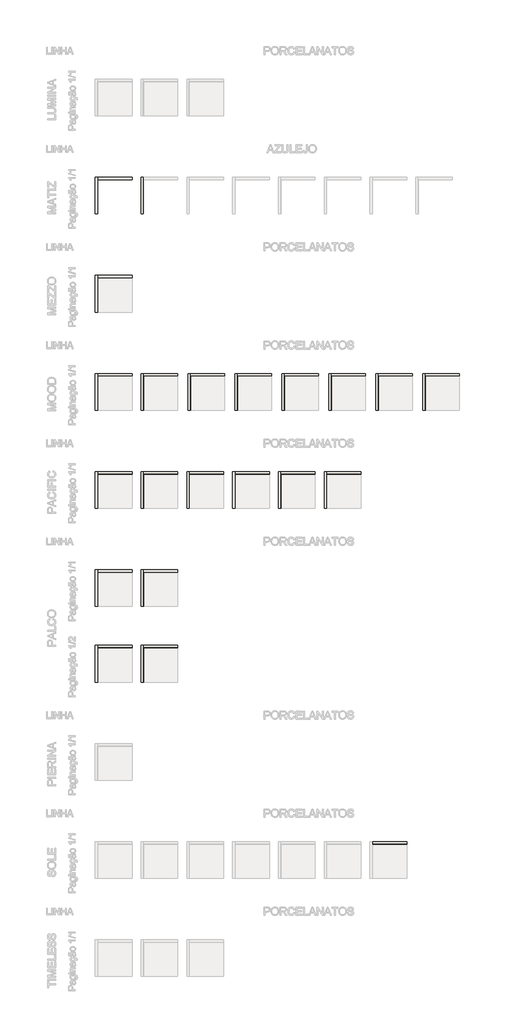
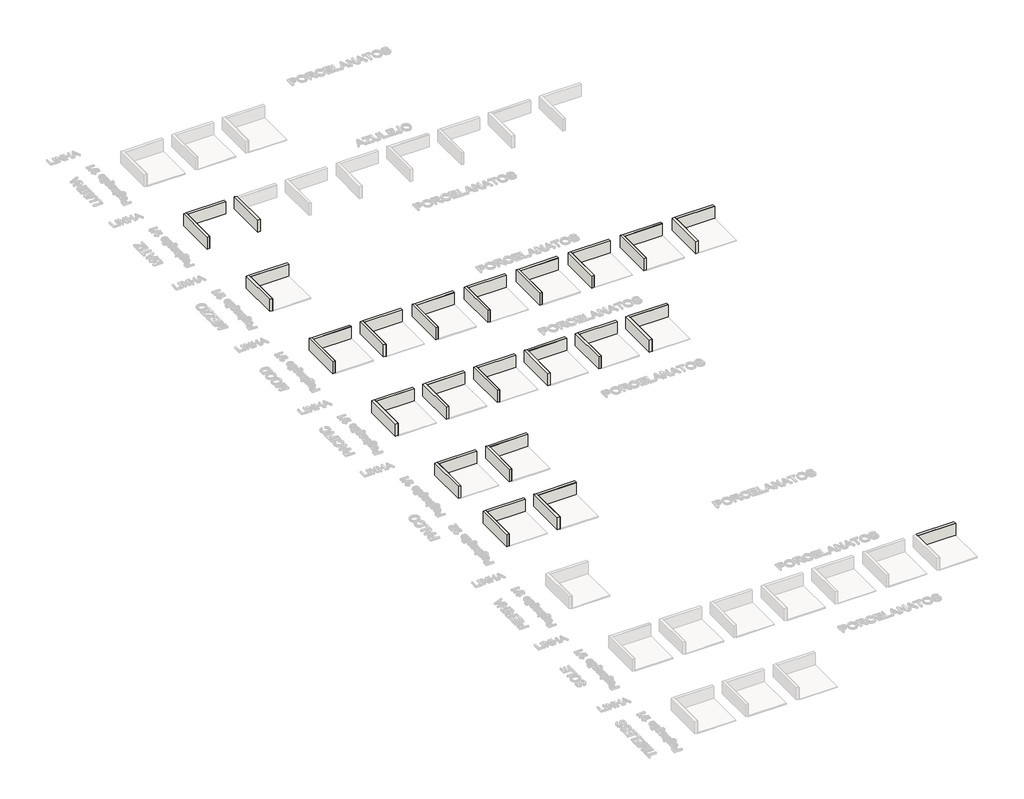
# One storey, part 2 of 22: 83 walls.
"""IFC4 building model written with IfcOpenShell, lengths in millimetres."""

import ifcopenshell
import ifcopenshell.guid

model = None  # the IFC model being written
_history = None  # IfcOwnerHistory: only IFC2X3 demands one
_inside = {}  # id of a spatial element -> (the spatial element, [elements in it])
_under = {}  # id of a project, library or spatial element -> (it, [spatial elements below it])
_declared = {}  # id of a project -> (the project, [libraries it declares])
_typed = {}  # id of a type object -> (the type object, [elements of that type])
_made_of = {}  # id of a material, layer set ... -> (it, [elements and type objects made of it])


def new_model(schema):
    """Start an empty IFC model of exactly this schema.

    Asked for "IFC4X3", IfcOpenShell would pick the latest addendum, in which some entities
    have other attributes; the version numbers below select the first issue.
    IFC2X3 requires an IfcOwnerHistory on every rooted entity: one is made here for all.
    """
    global model, _history
    if schema == "IFC4X3":
        model = ifcopenshell.file(schema_version=(4, 3, 0, 0))
    else:
        model = ifcopenshell.file(schema=schema)
    _inside.clear()
    _under.clear()
    _declared.clear()
    _typed.clear()
    _made_of.clear()
    _history = None
    if model.schema == "IFC2X3":
        org = make("IfcOrganization", Name="unknown")
        user = make(
            "IfcPersonAndOrganization",
            ThePerson=make("IfcPerson", FamilyName="unknown"),
            TheOrganization=org,
        )
        app = make(
            "IfcApplication",
            ApplicationDeveloper=org,
            Version="unknown",
            ApplicationFullName="unknown",
            ApplicationIdentifier="unknown",
        )
        _history = make(
            "IfcOwnerHistory",
            OwningUser=user,
            OwningApplication=app,
            ChangeAction="ADDED",
            CreationDate=0,
        )
    return model


def make(cls, **values):
    """One entity of the class cls with the attributes given. An attribute that is None is left unset."""
    return model.create_entity(
        cls, **{name: value for name, value in values.items() if value is not None}
    )


def rooted(cls, **values):
    """An entity with a GlobalId (a new one), such as an element, a storey or a relation."""
    return make(cls, GlobalId=ifcopenshell.guid.new(), OwnerHistory=_history, **values)


def si_unit(unit_type, name, prefix=None):
    """IfcSIUnit, for example si_unit("LENGTHUNIT", "METRE", prefix="MILLI")."""
    return make("IfcSIUnit", UnitType=unit_type, Prefix=prefix, Name=name)


def assignment(units):
    """IfcUnitAssignment: the units of a project."""
    return None if units is None else make("IfcUnitAssignment", Units=units)


def point(xyz):
    """IfcCartesianPoint."""
    return None if xyz is None else make("IfcCartesianPoint", Coordinates=xyz)


def direction(xyz):
    """IfcDirection."""
    return None if xyz is None else make("IfcDirection", DirectionRatios=xyz)


def frame(location, z_axis=None, x_axis=None):
    """IfcAxis2Placement3D, a coordinate frame: its origin and axes. An axis left out is left unset."""
    return make(
        "IfcAxis2Placement3D",
        Location=point(location),
        Axis=direction(z_axis),
        RefDirection=direction(x_axis),
    )


def origin():
    """The frame at (0, 0, 0) with its axes left unset."""
    return frame((0.0, 0.0, 0.0))


def origin_with_axes():
    """The frame at (0, 0, 0) with the z axis (0, 0, 1) and the x axis (1, 0, 0) written out."""
    return frame((0.0, 0.0, 0.0), z_axis=(0.0, 0.0, 1.0), x_axis=(1.0, 0.0, 0.0))


def place(relative_to, where):
    """IfcLocalPlacement: puts the frame where relative to a parent placement (None: the world)."""
    return make(
        "IfcLocalPlacement", PlacementRelTo=relative_to, RelativePlacement=where
    )


def context(
    kind, dimensions, precision=None, world=None, true_north=None, identifier=None
):
    """IfcGeometricRepresentationContext, for example the 3D "Model" context."""
    return make(
        "IfcGeometricRepresentationContext",
        ContextIdentifier=identifier,
        ContextType=kind,
        CoordinateSpaceDimension=dimensions,
        Precision=precision,
        WorldCoordinateSystem=world,
        TrueNorth=true_north,
    )


def project(units=None, contexts=None):
    """IfcProject with its units and contexts."""
    return rooted(
        "IfcProject",
        Name="project",
        RepresentationContexts=contexts,
        UnitsInContext=assignment(units),
    )


def spatial(cls, under=None, at=None, **own):
    """A site, building, storey or space (cls), placed at a placement, below another one or the project."""
    s = rooted(cls, ObjectPlacement=at, **own)
    if under is not None:
        _under.setdefault(under.id(), (under, []))[1].append(s)
    return s


def polyline(points):
    """IfcPolyline through the points."""
    return make("IfcPolyline", Points=[point(p) for p in points])


def outline(outer, holes=None, kind="AREA"):
    """IfcArbitraryClosedProfileDef: a profile drawn as a closed curve; with holes, ...WithVoids."""
    if holes is None:
        return make("IfcArbitraryClosedProfileDef", ProfileType=kind, OuterCurve=outer)
    return make(
        "IfcArbitraryProfileDefWithVoids",
        ProfileType=kind,
        OuterCurve=outer,
        InnerCurves=holes,
    )


def extrude(swept, where, along, depth):
    """IfcExtrudedAreaSolid: the profile swept, set in the frame where, extruded along a direction by depth."""
    return make(
        "IfcExtrudedAreaSolid",
        SweptArea=swept,
        Position=where,
        ExtrudedDirection=direction(along),
        Depth=depth,
    )


def faces_of(points, faces, orient=None, outer=None):
    """IfcFace entities. A face is a list of loops; a loop is a list of indices into points, from 0.

    orient and outer hold one flag for each loop. By default every Orientation is true, the
    first loop of a face is its IfcFaceOuterBound and the others are IfcFaceBound.
    """
    made = []
    for i, loops in enumerate(faces):
        bounds = []
        for j, loop in enumerate(loops):
            is_outer = j == 0 if outer is None else outer[i][j]
            bounds.append(
                make(
                    "IfcFaceOuterBound" if is_outer else "IfcFaceBound",
                    Bound=make("IfcPolyLoop", Polygon=[points[k] for k in loop]),
                    Orientation=True if orient is None else orient[i][j],
                )
            )
        made.append(make("IfcFace", Bounds=bounds))
    return made


def faceted_brep(points, faces, orient=None, outer=None, voids=None):
    """IfcFacetedBrep: a solid bounded by flat faces; with voids (closed shells), ...WithVoids."""
    shared = [point(p) for p in points]
    hull = make("IfcClosedShell", CfsFaces=faces_of(shared, faces, orient, outer))
    if voids is None:
        return make("IfcFacetedBrep", Outer=hull)
    return make(
        "IfcFacetedBrepWithVoids",
        Outer=hull,
        Voids=[
            make(cls, CfsFaces=faces_of(shared, fs, o, b)) for cls, fs, o, b in voids
        ],
    )


def shape(context_of_items, identifier, shape_type, items):
    """IfcShapeRepresentation: the items that make up one representation, for example the "Body"."""
    return make(
        "IfcShapeRepresentation",
        ContextOfItems=context_of_items,
        RepresentationIdentifier=identifier,
        RepresentationType=shape_type,
        Items=items,
    )


def made_of(thing, what):
    """Note that an element or type object is made of a material, layer set ...; save() writes the relation."""
    if what is not None:
        _made_of.setdefault(what.id(), (what, []))[1].append(thing)
    return thing


def element(
    cls,
    number,
    at=None,
    inside=None,
    cuts=None,
    type_object=None,
    material=None,
    context=None,
    identifier="Body",
    shape_type=None,
    held_by="IfcProductDefinitionShape",
    body=None,
    shapes=None,
    **own,
):
    """One element of the class cls, such as IfcWall. Its Tag is "e" and its number.

    at: its placement. inside: the storey or other place that contains it. cuts: it is an
    opening in that element (IfcRelVoidsElement). A single representation is given by context,
    identifier, shape_type and body (its items); several are given by shapes. held_by: the class
    of the entity that holds the representations. save() writes the other relations.
    """
    e = rooted(cls, Tag="e%d" % number, ObjectPlacement=at, **own)
    if body is not None:
        shapes = [shape(context, identifier, shape_type, body)]
    if shapes is not None:
        e.Representation = make(held_by, Representations=shapes)
    if inside is not None:
        _inside.setdefault(inside.id(), (inside, []))[1].append(e)
    if cuts is not None:
        rooted(
            "IfcRelVoidsElement", RelatingBuildingElement=cuts, RelatedOpeningElement=e
        )
    if type_object is not None:
        _typed.setdefault(type_object.id(), (type_object, []))[1].append(e)
    return made_of(e, material)


def aggregate(whole, parts):
    """IfcRelAggregates: a whole, such as a stair, and the parts it consists of."""
    return rooted("IfcRelAggregates", RelatingObject=whole, RelatedObjects=parts)


def save(model, path):
    """Write the relations noted so far, then the file.

    IfcRelAggregates (storeys below a building ...), IfcRelContainedInSpatialStructure (elements
    in a storey), IfcRelDefinesByType, IfcRelAssociatesMaterial and IfcRelDeclares: one each for
    every whole, place, type object, material and project.
    """
    for whole, parts in _under.values():
        aggregate(whole, parts)
    for where, things in _inside.values():
        rooted(
            "IfcRelContainedInSpatialStructure",
            RelatedElements=things,
            RelatingStructure=where,
        )
    for kind, things in _typed.values():
        rooted("IfcRelDefinesByType", RelatedObjects=things, RelatingType=kind)
    for what, things in _made_of.values():
        rooted("IfcRelAssociatesMaterial", RelatedObjects=things, RelatingMaterial=what)
    for by, libraries in _declared.values():
        rooted("IfcRelDeclares", RelatingContext=by, RelatedDefinitions=libraries)
    model.write(path)


model = new_model("IFC4")

# Units and contexts
model_context = context("Model", 3, world=origin())
ifc_project = project(units=[si_unit("LENGTHUNIT", "METRE", prefix="MILLI")], contexts=[model_context])

# Site, building, storey
site = spatial("IfcSite", under=ifc_project)
building = spatial("IfcBuilding", under=site)
storey = spatial("IfcBuildingStorey", under=building, Name="Showroom (N.A.)", Elevation=0.0)

# Walls
placement = place(None, origin())
element("IfcWall", 1, ObjectType="Portinari_Matiz_GR_LUX_8,24x25,75_Pag-1/1", at=placement, inside=storey, context=model_context, shape_type="Brep", body=[
    faceted_brep([(-107054.0516826, -148149.0310434, 0.0), (-110054.0516826, -148149.0310434, 0.0), (-110054.0516826, -148149.0310434, 1000.0), (-107054.0516826, -148149.0310434, 1000.0), (-107054.0516826, -148161.4310434, 0.0), (-107054.0516826, -148161.4310434, 1000.0), (-110041.6516826, -148161.4310434, 1000.0), (-110054.0516826, -148161.4310434, 1000.0), (-110054.0516826, -148161.4310434, 0.0), (-110041.6516826, -148161.4310434, 0.0)], [[[0, 1, 2, 3]], [[4, 5, 6, 7, 8, 9]], [[1, 0, 4, 9, 8]], [[3, 2, 7, 6, 5]], [[0, 3, 5, 4]], [[2, 1, 8, 7]]]),
])
element("IfcWall", 2, ObjectType="Portinari_Matiz_GR_LUX_8,24x25,75_Pag-1/1", at=placement, inside=storey, context=model_context, shape_type="SweptSolid", body=[
    extrude(outline(polyline([(-110054.0516826, -151149.0310434), (-110054.0516826, -148161.4310434), (-110041.6516826, -148161.4310434), (-110041.6516826, -151149.0310434), (-110054.0516826, -151149.0310434)])), origin_with_axes(), (0.0, 0.0, 1.0), 1000.0),
])
element("IfcWall", 3, ObjectType="Portinari_Mezzo_BE_NAT_8,24x25,75_Pag-1/1", at=placement, inside=storey, context=model_context, shape_type="Brep", body=[
    faceted_brep([(-107054.0516826, -156712.4019223, 0.0), (-110054.0516826, -156712.4019223, 0.0), (-110054.0516826, -156712.4019223, 1000.0), (-107054.0516826, -156712.4019223, 1000.0), (-107054.0516826, -156726.4019223, 0.0), (-107054.0516826, -156726.4019223, 1000.0), (-110040.0516826, -156726.4019223, 1000.0), (-110054.0516826, -156726.4019223, 1000.0), (-110054.0516826, -156726.4019223, 0.0), (-110040.0516826, -156726.4019223, 0.0)], [[[0, 1, 2, 3]], [[4, 5, 6, 7, 8, 9]], [[1, 0, 4, 9, 8]], [[3, 2, 7, 6, 5]], [[0, 3, 5, 4]], [[2, 1, 8, 7]]]),
])
element("IfcWall", 4, ObjectType="Portinari_Mezzo_BE_NAT_8,24x25,75_Pag-1/1", at=placement, inside=storey, context=model_context, shape_type="SweptSolid", body=[
    extrude(outline(polyline([(-110054.0516826, -159712.4019223), (-110054.0516826, -156726.4019223), (-110040.0516826, -156726.4019223), (-110040.0516826, -159712.4019223), (-110054.0516826, -159712.4019223)])), origin_with_axes(), (0.0, 0.0, 1.0), 1000.0),
])
element("IfcWall", 5, ObjectType="Portinari_Mood_WH_LUX_15x15_Pag-1/1", at=placement, inside=storey, context=model_context, shape_type="Brep", body=[
    faceted_brep([(-107054.0516826, -165275.7728011, 0.0), (-110054.0516826, -165275.7728011, 0.0), (-110054.0516826, -165275.7728011, 1000.0), (-107054.0516826, -165275.7728011, 1000.0), (-107054.0516826, -165288.1728011, 0.0), (-107054.0516826, -165288.1728011, 1000.0), (-110041.6516826, -165288.1728011, 1000.0), (-110054.0516826, -165288.1728011, 1000.0), (-110054.0516826, -165288.1728011, 0.0), (-110041.6516826, -165288.1728011, 0.0)], [[[0, 1, 2, 3]], [[4, 5, 6, 7, 8, 9]], [[1, 0, 4, 9, 8]], [[3, 2, 7, 6, 5]], [[0, 3, 5, 4]], [[2, 1, 8, 7]]]),
])
element("IfcWall", 6, ObjectType="Portinari_Mood_WH_LUX_15x15_Pag-1/1", at=placement, inside=storey, context=model_context, shape_type="SweptSolid", body=[
    extrude(outline(polyline([(-110054.0516826, -168275.7728011), (-110054.0516826, -165288.1728011), (-110041.6516826, -165288.1728011), (-110041.6516826, -168275.7728011), (-110054.0516826, -168275.7728011)])), origin_with_axes(), (0.0, 0.0, 1.0), 1000.0),
])
element("IfcWall", 7, ObjectType="Portinari_Mood_AL_LUX_15x15_Pag-1/1", at=placement, inside=storey, context=model_context, shape_type="Brep", body=[
    faceted_brep([(-103054.0516826, -165275.7728011, 0.0), (-106054.0516826, -165275.7728011, 0.0), (-106054.0516826, -165275.7728011, 1000.0), (-103054.0516826, -165275.7728011, 1000.0), (-103054.0516826, -165288.1728011, 0.0), (-103054.0516826, -165288.1728011, 1000.0), (-106041.6516826, -165288.1728011, 1000.0), (-106054.0516826, -165288.1728011, 1000.0), (-106054.0516826, -165288.1728011, 0.0), (-106041.6516826, -165288.1728011, 0.0)], [[[0, 1, 2, 3]], [[4, 5, 6, 7, 8, 9]], [[1, 0, 4, 9, 8]], [[3, 2, 7, 6, 5]], [[0, 3, 5, 4]], [[2, 1, 8, 7]]]),
])
element("IfcWall", 8, ObjectType="Portinari_Mood_AL_LUX_15x15_Pag-1/1", at=placement, inside=storey, context=model_context, shape_type="SweptSolid", body=[
    extrude(outline(polyline([(-106054.0516826, -168275.7728011), (-106054.0516826, -165288.1728011), (-106041.6516826, -165288.1728011), (-106041.6516826, -168275.7728011), (-106054.0516826, -168275.7728011)])), origin_with_axes(), (0.0, 0.0, 1.0), 1000.0),
])
element("IfcWall", 9, ObjectType="Portinari_Mood_GR_LUX_15x15_Pag-1/1", at=placement, inside=storey, context=model_context, shape_type="Brep", body=[
    faceted_brep([(-98954.0516826, -165275.7728011, 0.0), (-101954.0516826, -165275.7728011, 0.0), (-101954.0516826, -165275.7728011, 1000.0), (-98954.0516826, -165275.7728011, 1000.0), (-98954.0516826, -165288.1728011, 0.0), (-98954.0516826, -165288.1728011, 1000.0), (-101941.6516826, -165288.1728011, 1000.0), (-101954.0516826, -165288.1728011, 1000.0), (-101954.0516826, -165288.1728011, 0.0), (-101941.6516826, -165288.1728011, 0.0)], [[[0, 1, 2, 3]], [[4, 5, 6, 7, 8, 9]], [[1, 0, 4, 9, 8]], [[3, 2, 7, 6, 5]], [[0, 3, 5, 4]], [[2, 1, 8, 7]]]),
])
element("IfcWall", 10, ObjectType="Portinari_Mood_GR_LUX_15x15_Pag-1/1", at=placement, inside=storey, context=model_context, shape_type="SweptSolid", body=[
    extrude(outline(polyline([(-101954.0516826, -168275.7728011), (-101954.0516826, -165288.1728011), (-101941.6516826, -165288.1728011), (-101941.6516826, -168275.7728011), (-101954.0516826, -168275.7728011)])), origin_with_axes(), (0.0, 0.0, 1.0), 1000.0),
])
element("IfcWall", 11, ObjectType="Portinari_Mood_BW_LUX_15x15_Pag-1/1", at=placement, inside=storey, context=model_context, shape_type="Brep", body=[
    faceted_brep([(-94854.0516826, -165275.7728011, 0.0), (-97854.0516826, -165275.7728011, 0.0), (-97854.0516826, -165275.7728011, 1000.0), (-94854.0516826, -165275.7728011, 1000.0), (-94854.0516826, -165288.1728011, 0.0), (-94854.0516826, -165288.1728011, 1000.0), (-97841.6516826, -165288.1728011, 1000.0), (-97854.0516826, -165288.1728011, 1000.0), (-97854.0516826, -165288.1728011, 0.0), (-97841.6516826, -165288.1728011, 0.0)], [[[0, 1, 2, 3]], [[4, 5, 6, 7, 8, 9]], [[1, 0, 4, 9, 8]], [[3, 2, 7, 6, 5]], [[0, 3, 5, 4]], [[2, 1, 8, 7]]]),
])
element("IfcWall", 12, ObjectType="Portinari_Mood_BW_LUX_15x15_Pag-1/1", at=placement, inside=storey, context=model_context, shape_type="SweptSolid", body=[
    extrude(outline(polyline([(-97854.0516826, -168275.7728011), (-97854.0516826, -165288.1728011), (-97841.6516826, -165288.1728011), (-97841.6516826, -168275.7728011), (-97854.0516826, -168275.7728011)])), origin_with_axes(), (0.0, 0.0, 1.0), 1000.0),
])
element("IfcWall", 13, ObjectType="Portinari_Mood_GN_LUX_15x15_Pag-1/1", at=placement, inside=storey, context=model_context, shape_type="Brep", body=[
    faceted_brep([(-90754.0516826, -165275.7728011, 0.0), (-93754.0516826, -165275.7728011, 0.0), (-93754.0516826, -165275.7728011, 1000.0), (-90754.0516826, -165275.7728011, 1000.0), (-90754.0516826, -165288.1728011, 0.0), (-90754.0516826, -165288.1728011, 1000.0), (-93741.6516826, -165288.1728011, 1000.0), (-93754.0516826, -165288.1728011, 1000.0), (-93754.0516826, -165288.1728011, 0.0), (-93741.6516826, -165288.1728011, 0.0)], [[[0, 1, 2, 3]], [[4, 5, 6, 7, 8, 9]], [[1, 0, 4, 9, 8]], [[3, 2, 7, 6, 5]], [[0, 3, 5, 4]], [[2, 1, 8, 7]]]),
])
element("IfcWall", 14, ObjectType="Portinari_Mood_GN_LUX_15x15_Pag-1/1", at=placement, inside=storey, context=model_context, shape_type="SweptSolid", body=[
    extrude(outline(polyline([(-93754.0516826, -168275.7728011), (-93754.0516826, -165288.1728011), (-93741.6516826, -165288.1728011), (-93741.6516826, -168275.7728011), (-93754.0516826, -168275.7728011)])), origin_with_axes(), (0.0, 0.0, 1.0), 1000.0),
])
element("IfcWall", 15, ObjectType="Portinari_Mood_BL_LUX_15x15_Pag-1/1", at=placement, inside=storey, context=model_context, shape_type="Brep", body=[
    faceted_brep([(-86654.0516826, -165275.7728011, 0.0), (-89654.0516826, -165275.7728011, 0.0), (-89654.0516826, -165275.7728011, 1000.0), (-86654.0516826, -165275.7728011, 1000.0), (-86654.0516826, -165288.1728011, 0.0), (-86654.0516826, -165288.1728011, 1000.0), (-89641.6516826, -165288.1728011, 1000.0), (-89654.0516826, -165288.1728011, 1000.0), (-89654.0516826, -165288.1728011, 0.0), (-89641.6516826, -165288.1728011, 0.0)], [[[0, 1, 2, 3]], [[4, 5, 6, 7, 8, 9]], [[1, 0, 4, 9, 8]], [[3, 2, 7, 6, 5]], [[0, 3, 5, 4]], [[2, 1, 8, 7]]]),
])
element("IfcWall", 16, ObjectType="Portinari_Mood_BL_LUX_15x15_Pag-1/1", at=placement, inside=storey, context=model_context, shape_type="SweptSolid", body=[
    extrude(outline(polyline([(-89654.0516826, -168275.7728011), (-89654.0516826, -165288.1728011), (-89641.6516826, -165288.1728011), (-89641.6516826, -168275.7728011), (-89654.0516826, -168275.7728011)])), origin_with_axes(), (0.0, 0.0, 1.0), 1000.0),
])
element("IfcWall", 17, ObjectType="Portinari_Mood_SGN_LUX_15x15_Pag-1/1", at=placement, inside=storey, context=model_context, shape_type="Brep", body=[
    faceted_brep([(-82554.0516826, -165275.7728011, 0.0), (-85554.0516826, -165275.7728011, 0.0), (-85554.0516826, -165275.7728011, 1000.0), (-82554.0516826, -165275.7728011, 1000.0), (-82554.0516826, -165288.1728011, 0.0), (-82554.0516826, -165288.1728011, 1000.0), (-85541.6516826, -165288.1728011, 1000.0), (-85554.0516826, -165288.1728011, 1000.0), (-85554.0516826, -165288.1728011, 0.0), (-85541.6516826, -165288.1728011, 0.0)], [[[0, 1, 2, 3]], [[4, 5, 6, 7, 8, 9]], [[1, 0, 4, 9, 8]], [[3, 2, 7, 6, 5]], [[0, 3, 5, 4]], [[2, 1, 8, 7]]]),
])
element("IfcWall", 18, ObjectType="Portinari_Mood_SGN_LUX_15x15_Pag-1/1", at=placement, inside=storey, context=model_context, shape_type="SweptSolid", body=[
    extrude(outline(polyline([(-85554.0516826, -168275.7728011), (-85554.0516826, -165288.1728011), (-85541.6516826, -165288.1728011), (-85541.6516826, -168275.7728011), (-85554.0516826, -168275.7728011)])), origin_with_axes(), (0.0, 0.0, 1.0), 1000.0),
])
element("IfcWall", 19, ObjectType="Portinari_Mood_SPK_LUX_15x15_Pag-1/1", at=placement, inside=storey, context=model_context, shape_type="Brep", body=[
    faceted_brep([(-78454.0516826, -165275.7728011, 0.0), (-81454.0516826, -165275.7728011, 0.0), (-81454.0516826, -165275.7728011, 1000.0), (-78454.0516826, -165275.7728011, 1000.0), (-78454.0516826, -165288.1728011, 0.0), (-78454.0516826, -165288.1728011, 1000.0), (-81441.6516826, -165288.1728011, 1000.0), (-81454.0516826, -165288.1728011, 1000.0), (-81454.0516826, -165288.1728011, 0.0), (-81441.6516826, -165288.1728011, 0.0)], [[[0, 1, 2, 3]], [[4, 5, 6, 7, 8, 9]], [[1, 0, 4, 9, 8]], [[3, 2, 7, 6, 5]], [[0, 3, 5, 4]], [[2, 1, 8, 7]]]),
])
element("IfcWall", 20, ObjectType="Portinari_Mood_SPK_LUX_15x15_Pag-1/1", at=placement, inside=storey, context=model_context, shape_type="SweptSolid", body=[
    extrude(outline(polyline([(-81454.0516826, -168275.7728011), (-81454.0516826, -165288.1728011), (-81441.6516826, -165288.1728011), (-81441.6516826, -168275.7728011), (-81454.0516826, -168275.7728011)])), origin_with_axes(), (0.0, 0.0, 1.0), 1000.0),
])
element("IfcWall", 21, ObjectType="Portinari_Borda_Mini_Pacific_SBL_HARD_13x201,3_Pag-1/1", at=placement, inside=storey, context=model_context, shape_type="Brep", body=[
    faceted_brep([(-107054.0516826, -173839.14368, 0.0), (-110054.0516826, -173839.14368, 0.0), (-110054.0516826, -173839.14368, 1000.0), (-107054.0516826, -173839.14368, 1000.0), (-107054.0516826, -173851.54368, 0.0), (-107054.0516826, -173851.54368, 1000.0), (-110041.6516826, -173851.54368, 1000.0), (-110054.0516826, -173851.54368, 1000.0), (-110054.0516826, -173851.54368, 0.0), (-110041.6516826, -173851.54368, 0.0)], [[[0, 1, 2, 3]], [[4, 5, 6, 7, 8, 9]], [[1, 0, 4, 9, 8]], [[3, 2, 7, 6, 5]], [[0, 3, 5, 4]], [[2, 1, 8, 7]]]),
])
element("IfcWall", 22, ObjectType="Portinari_Borda_Mini_Pacific_SBL_HARD_13x201,3_Pag-1/1", at=placement, inside=storey, context=model_context, shape_type="SweptSolid", body=[
    extrude(outline(polyline([(-110054.0516826, -176839.14368), (-110054.0516826, -173851.54368), (-110041.6516826, -173851.54368), (-110041.6516826, -176839.14368), (-110054.0516826, -176839.14368)])), origin_with_axes(), (0.0, 0.0, 1.0), 1000.0),
])
element("IfcWall", 23, ObjectType="Portinari_Borda_Mini_Pacific_SGN_HARD_13x201,3_Pag-1/1", at=placement, inside=storey, context=model_context, shape_type="Brep", body=[
    faceted_brep([(-103054.0516826, -173839.14368, 0.0), (-106054.0516826, -173839.14368, 0.0), (-106054.0516826, -173839.14368, 1000.0), (-103054.0516826, -173839.14368, 1000.0), (-103054.0516826, -173851.54368, 0.0), (-103054.0516826, -173851.54368, 1000.0), (-106041.6516826, -173851.54368, 1000.0), (-106054.0516826, -173851.54368, 1000.0), (-106054.0516826, -173851.54368, 0.0), (-106041.6516826, -173851.54368, 0.0)], [[[0, 1, 2, 3]], [[4, 5, 6, 7, 8, 9]], [[1, 0, 4, 9, 8]], [[3, 2, 7, 6, 5]], [[0, 3, 5, 4]], [[2, 1, 8, 7]]]),
])
element("IfcWall", 24, ObjectType="Portinari_Borda_Mini_Pacific_SGN_HARD_13x201,3_Pag-1/1", at=placement, inside=storey, context=model_context, shape_type="SweptSolid", body=[
    extrude(outline(polyline([(-106054.0516826, -176839.14368), (-106054.0516826, -173851.54368), (-106041.6516826, -173851.54368), (-106041.6516826, -176839.14368), (-106054.0516826, -176839.14368)])), origin_with_axes(), (0.0, 0.0, 1.0), 1000.0),
])
element("IfcWall", 25, ObjectType="Portinari_Pacific_SBL_HARD_20,13x20,13_Pag-1/1", at=placement, inside=storey, context=model_context, shape_type="Brep", body=[
    faceted_brep([(-99054.0516826, -173839.14368, 0.0), (-102054.0516826, -173839.14368, 0.0), (-102054.0516826, -173839.14368, 1000.0), (-99054.0516826, -173839.14368, 1000.0), (-99054.0516826, -173851.54368, 0.0), (-99054.0516826, -173851.54368, 1000.0), (-102041.6516826, -173851.54368, 1000.0), (-102054.0516826, -173851.54368, 1000.0), (-102054.0516826, -173851.54368, 0.0), (-102041.6516826, -173851.54368, 0.0)], [[[0, 1, 2, 3]], [[4, 5, 6, 7, 8, 9]], [[1, 0, 4, 9, 8]], [[3, 2, 7, 6, 5]], [[0, 3, 5, 4]], [[2, 1, 8, 7]]]),
])
element("IfcWall", 26, ObjectType="Portinari_Pacific_SBL_HARD_20,13x20,13_Pag-1/1", at=placement, inside=storey, context=model_context, shape_type="SweptSolid", body=[
    extrude(outline(polyline([(-102054.0516826, -176839.14368), (-102054.0516826, -173851.54368), (-102041.6516826, -173851.54368), (-102041.6516826, -176839.14368), (-102054.0516826, -176839.14368)])), origin_with_axes(), (0.0, 0.0, 1.0), 1000.0),
])
element("IfcWall", 27, ObjectType="Portinari_Pacific_SBL_LUX_20,13x20,13_Pag-1/1", at=placement, inside=storey, context=model_context, shape_type="Brep", body=[
    faceted_brep([(-95054.0516826, -173839.14368, 0.0), (-98054.0516826, -173839.14368, 0.0), (-98054.0516826, -173839.14368, 1000.0), (-95054.0516826, -173839.14368, 1000.0), (-95054.0516826, -173851.54368, 0.0), (-95054.0516826, -173851.54368, 1000.0), (-98041.6516826, -173851.54368, 1000.0), (-98054.0516826, -173851.54368, 1000.0), (-98054.0516826, -173851.54368, 0.0), (-98041.6516826, -173851.54368, 0.0)], [[[0, 1, 2, 3]], [[4, 5, 6, 7, 8, 9]], [[1, 0, 4, 9, 8]], [[3, 2, 7, 6, 5]], [[0, 3, 5, 4]], [[2, 1, 8, 7]]]),
])
element("IfcWall", 28, ObjectType="Portinari_Pacific_SBL_LUX_20,13x20,13_Pag-1/1", at=placement, inside=storey, context=model_context, shape_type="SweptSolid", body=[
    extrude(outline(polyline([(-98054.0516826, -176839.14368), (-98054.0516826, -173851.54368), (-98041.6516826, -173851.54368), (-98041.6516826, -176839.14368), (-98054.0516826, -176839.14368)])), origin_with_axes(), (0.0, 0.0, 1.0), 1000.0),
])
element("IfcWall", 29, ObjectType="Portinari_Pacific_SGN_HARD_20,13x20,13_Pag-1/1", at=placement, inside=storey, context=model_context, shape_type="Brep", body=[
    faceted_brep([(-91054.0516826, -173839.14368, 0.0), (-94054.0516826, -173839.14368, 0.0), (-94054.0516826, -173839.14368, 1000.0), (-91054.0516826, -173839.14368, 1000.0), (-91054.0516826, -173851.54368, 0.0), (-91054.0516826, -173851.54368, 1000.0), (-94041.6516826, -173851.54368, 1000.0), (-94054.0516826, -173851.54368, 1000.0), (-94054.0516826, -173851.54368, 0.0), (-94041.6516826, -173851.54368, 0.0)], [[[0, 1, 2, 3]], [[4, 5, 6, 7, 8, 9]], [[1, 0, 4, 9, 8]], [[3, 2, 7, 6, 5]], [[0, 3, 5, 4]], [[2, 1, 8, 7]]]),
])
element("IfcWall", 30, ObjectType="Portinari_Pacific_SGN_HARD_20,13x20,13_Pag-1/1", at=placement, inside=storey, context=model_context, shape_type="SweptSolid", body=[
    extrude(outline(polyline([(-94054.0516826, -176839.14368), (-94054.0516826, -173851.54368), (-94041.6516826, -173851.54368), (-94041.6516826, -176839.14368), (-94054.0516826, -176839.14368)])), origin_with_axes(), (0.0, 0.0, 1.0), 1000.0),
])
element("IfcWall", 31, ObjectType="Portinari_Pacific_SGN_LUX_20,13x20,13_Pag-1/1", at=placement, inside=storey, context=model_context, shape_type="Brep", body=[
    faceted_brep([(-87054.0516826, -173839.14368, 0.0), (-90054.0516826, -173839.14368, 0.0), (-90054.0516826, -173839.14368, 1000.0), (-87054.0516826, -173839.14368, 1000.0), (-87054.0516826, -173851.54368, 0.0), (-87054.0516826, -173851.54368, 1000.0), (-90041.6516826, -173851.54368, 1000.0), (-90054.0516826, -173851.54368, 1000.0), (-90054.0516826, -173851.54368, 0.0), (-90041.6516826, -173851.54368, 0.0)], [[[0, 1, 2, 3]], [[4, 5, 6, 7, 8, 9]], [[1, 0, 4, 9, 8]], [[3, 2, 7, 6, 5]], [[0, 3, 5, 4]], [[2, 1, 8, 7]]]),
])
element("IfcWall", 32, ObjectType="Portinari_Pacific_SGN_LUX_20,13x20,13_Pag-1/1", at=placement, inside=storey, context=model_context, shape_type="SweptSolid", body=[
    extrude(outline(polyline([(-90054.0516826, -176839.14368), (-90054.0516826, -173851.54368), (-90041.6516826, -173851.54368), (-90041.6516826, -176839.14368), (-90054.0516826, -176839.14368)])), origin_with_axes(), (0.0, 0.0, 1.0), 1000.0),
])
element("IfcWall", 33, ObjectType="Portinari_Palco_Deck_BE_HARD_19x117_Pag-1/1", at=placement, inside=storey, context=model_context, shape_type="Brep", body=[
    faceted_brep([(-107054.0516826, -182402.5145588, 0.0), (-110054.0516826, -182402.5145588, 0.0), (-110054.0516826, -182402.5145588, 1000.0), (-107054.0516826, -182402.5145588, 1000.0), (-107054.0516826, -182417.5145588, 0.0), (-107054.0516826, -182417.5145588, 1000.0), (-110039.0516826, -182417.5145588, 1000.0), (-110054.0516826, -182417.5145588, 1000.0), (-110054.0516826, -182417.5145588, 0.0), (-110039.0516826, -182417.5145588, 0.0)], [[[0, 1, 2, 3]], [[4, 5, 6, 7, 8, 9]], [[1, 0, 4, 9, 8]], [[3, 2, 7, 6, 5]], [[0, 3, 5, 4]], [[2, 1, 8, 7]]]),
])
element("IfcWall", 34, ObjectType="Portinari_Palco_Deck_BE_HARD_19x117_Pag-1/1", at=placement, inside=storey, context=model_context, shape_type="SweptSolid", body=[
    extrude(outline(polyline([(-110054.0516826, -185402.5145588), (-110054.0516826, -182417.5145588), (-110039.0516826, -182417.5145588), (-110039.0516826, -185402.5145588), (-110054.0516826, -185402.5145588)])), origin_with_axes(), (0.0, 0.0, 1.0), 1000.0),
])
element("IfcWall", 35, ObjectType="Portinari_Palco_Deck_BW_HARD_19x117_Pag-1/1", at=placement, inside=storey, context=model_context, shape_type="Brep", body=[
    faceted_brep([(-103054.0516826, -182402.5145588, 0.0), (-106054.0516826, -182402.5145588, 0.0), (-106054.0516826, -182402.5145588, 1000.0), (-103054.0516826, -182402.5145588, 1000.0), (-103054.0516826, -182417.5145588, 0.0), (-103054.0516826, -182417.5145588, 1000.0), (-106039.0516826, -182417.5145588, 1000.0), (-106054.0516826, -182417.5145588, 1000.0), (-106054.0516826, -182417.5145588, 0.0), (-106039.0516826, -182417.5145588, 0.0)], [[[0, 1, 2, 3]], [[4, 5, 6, 7, 8, 9]], [[1, 0, 4, 9, 8]], [[3, 2, 7, 6, 5]], [[0, 3, 5, 4]], [[2, 1, 8, 7]]]),
])
element("IfcWall", 36, ObjectType="Portinari_Palco_Deck_BW_HARD_19x117_Pag-1/1", at=placement, inside=storey, context=model_context, shape_type="SweptSolid", body=[
    extrude(outline(polyline([(-106054.0516826, -185402.5145588), (-106054.0516826, -182417.5145588), (-106039.0516826, -182417.5145588), (-106039.0516826, -185402.5145588), (-106054.0516826, -185402.5145588)])), origin_with_axes(), (0.0, 0.0, 1.0), 1000.0),
])
element("IfcWall", 37, ObjectType="Portinari_Palco_Deck_BE_HARD_19x117_Pag-1/2", at=placement, inside=storey, context=model_context, shape_type="Brep", body=[
    faceted_brep([(-107054.0516826, -189002.5145588, 0.0), (-110054.0516826, -189002.5145588, 0.0), (-110054.0516826, -189002.5145588, 1000.0), (-107054.0516826, -189002.5145588, 1000.0), (-107054.0516826, -189017.5145588, 0.0), (-107054.0516826, -189017.5145588, 1000.0), (-110039.0516826, -189017.5145588, 1000.0), (-110054.0516826, -189017.5145588, 1000.0), (-110054.0516826, -189017.5145588, 0.0), (-110039.0516826, -189017.5145588, 0.0)], [[[0, 1, 2, 3]], [[4, 5, 6, 7, 8, 9]], [[1, 0, 4, 9, 8]], [[3, 2, 7, 6, 5]], [[0, 3, 5, 4]], [[2, 1, 8, 7]]]),
])
element("IfcWall", 38, ObjectType="Portinari_Palco_Deck_BE_HARD_19x117_Pag-1/2", at=placement, inside=storey, context=model_context, shape_type="SweptSolid", body=[
    extrude(outline(polyline([(-110054.0516826, -192002.5145588), (-110054.0516826, -189017.5145588), (-110039.0516826, -189017.5145588), (-110039.0516826, -192002.5145588), (-110054.0516826, -192002.5145588)])), origin_with_axes(), (0.0, 0.0, 1.0), 1000.0),
])
element("IfcWall", 39, ObjectType="Portinari_Palco_Deck_BW_HARD_19x117_Pag-1/2", at=placement, inside=storey, context=model_context, shape_type="Brep", body=[
    faceted_brep([(-103054.0516826, -189002.5145588, 0.0), (-106054.0516826, -189002.5145588, 0.0), (-106054.0516826, -189002.5145588, 1000.0), (-103054.0516826, -189002.5145588, 1000.0), (-103054.0516826, -189017.5145588, 0.0), (-103054.0516826, -189017.5145588, 1000.0), (-106039.0516826, -189017.5145588, 1000.0), (-106054.0516826, -189017.5145588, 1000.0), (-106054.0516826, -189017.5145588, 0.0), (-106039.0516826, -189017.5145588, 0.0)], [[[0, 1, 2, 3]], [[4, 5, 6, 7, 8, 9]], [[1, 0, 4, 9, 8]], [[3, 2, 7, 6, 5]], [[0, 3, 5, 4]], [[2, 1, 8, 7]]]),
])
element("IfcWall", 40, ObjectType="Portinari_Palco_Deck_BW_HARD_19x117_Pag-1/2", at=placement, inside=storey, context=model_context, shape_type="SweptSolid", body=[
    extrude(outline(polyline([(-106054.0516826, -192002.5145588), (-106054.0516826, -189017.5145588), (-106039.0516826, -189017.5145588), (-106039.0516826, -192002.5145588), (-106054.0516826, -192002.5145588)])), origin_with_axes(), (0.0, 0.0, 1.0), 1000.0),
])
element("IfcWall", 41, ObjectType="Portinari_Sole_Decor_BW_NAT_4,82x40_Pag-1/1", at=placement, inside=storey, context=model_context, shape_type="Brep", body=[
    faceted_brep([(-83054.0516826, -206129.2563166, 0.0), (-86054.0516826, -206129.2563166, 0.0), (-86054.0516826, -206129.2563166, 1000.0), (-83054.0516826, -206129.2563166, 1000.0), (-83054.0516826, -206141.6563166, 0.0), (-83054.0516826, -206141.6563166, 1000.0), (-86041.6516826, -206141.6563166, 1000.0), (-86054.0516826, -206141.6563166, 1000.0), (-86054.0516826, -206141.6563166, 0.0), (-86041.6516826, -206141.6563166, 0.0)], [[[0, 1, 2, 3]], [[4, 5, 6, 7, 8, 9]], [[1, 0, 4, 9, 8]], [[3, 2, 7, 6, 5]], [[0, 3, 5, 4]], [[2, 1, 8, 7]]]),
])
element("IfcWall", 42, ObjectType="Wall 1", at=placement, inside=storey, context=model_context, shape_type="Brep", body=[
    faceted_brep([(-110054.0516826, -151149.0310434, 0.0), (-110054.0516826, -148149.0310434, 0.0), (-110054.0516826, -147949.0310434, 0.0), (-110054.0516826, -147949.0310434, 1000.0), (-110054.0516826, -148149.0310434, 1000.0), (-110054.0516826, -151149.0310434, 1000.0), (-110254.0516826, -151149.0310434, 0.0), (-110254.0516826, -151149.0310434, 1000.0), (-110254.0516826, -147949.0310434, 1000.0), (-110254.0516826, -147949.0310434, 0.0)], [[[0, 1, 2, 3, 4, 5]], [[6, 7, 8, 9]], [[2, 1, 0, 6, 9]], [[5, 4, 3, 8, 7]], [[0, 5, 7, 6]], [[3, 2, 9, 8]]]),
])
element("IfcWall", 43, ObjectType="Wall 1", at=placement, inside=storey, context=model_context, shape_type="SweptSolid", body=[
    extrude(outline(polyline([(-107054.0516826, -148149.0310434), (-110054.0516826, -148149.0310434), (-110054.0516826, -147949.0310434), (-107054.0516826, -147949.0310434), (-107054.0516826, -148149.0310434)])), origin_with_axes(), (0.0, 0.0, 1.0), 1000.0),
])
element("IfcWall", 44, ObjectType="Wall 1", at=placement, inside=storey, context=model_context, shape_type="Brep", body=[
    faceted_brep([(-106054.0516826, -151149.0310434, 0.0), (-106054.0516826, -148149.0310434, 0.0), (-106054.0516826, -147949.0310434, 0.0), (-106054.0516826, -147949.0310434, 1000.0), (-106054.0516826, -148149.0310434, 1000.0), (-106054.0516826, -151149.0310434, 1000.0), (-106254.0516826, -151149.0310434, 0.0), (-106254.0516826, -151149.0310434, 1000.0), (-106254.0516826, -147949.0310434, 1000.0), (-106254.0516826, -147949.0310434, 0.0)], [[[0, 1, 2, 3, 4, 5]], [[6, 7, 8, 9]], [[2, 1, 0, 6, 9]], [[5, 4, 3, 8, 7]], [[0, 5, 7, 6]], [[3, 2, 9, 8]]]),
])
element("IfcWall", 45, ObjectType="Wall 1", at=placement, inside=storey, context=model_context, shape_type="Brep", body=[
    faceted_brep([(-110054.0516826, -159712.4019223, 0.0), (-110054.0516826, -156712.4019223, 0.0), (-110054.0516826, -156512.4019223, 0.0), (-110054.0516826, -156512.4019223, 1000.0), (-110054.0516826, -156712.4019223, 1000.0), (-110054.0516826, -159712.4019223, 1000.0), (-110254.0516826, -159712.4019223, 0.0), (-110254.0516826, -159712.4019223, 1000.0), (-110254.0516826, -156512.4019223, 1000.0), (-110254.0516826, -156512.4019223, 0.0)], [[[0, 1, 2, 3, 4, 5]], [[6, 7, 8, 9]], [[2, 1, 0, 6, 9]], [[5, 4, 3, 8, 7]], [[0, 5, 7, 6]], [[3, 2, 9, 8]]]),
])
element("IfcWall", 46, ObjectType="Wall 1", at=placement, inside=storey, context=model_context, shape_type="SweptSolid", body=[
    extrude(outline(polyline([(-107054.0516826, -156712.4019223), (-110054.0516826, -156712.4019223), (-110054.0516826, -156512.4019223), (-107054.0516826, -156512.4019223), (-107054.0516826, -156712.4019223)])), origin_with_axes(), (0.0, 0.0, 1.0), 1000.0),
])
element("IfcWall", 47, ObjectType="Wall 1", at=placement, inside=storey, context=model_context, shape_type="Brep", body=[
    faceted_brep([(-110054.0516826, -168275.7728011, 0.0), (-110054.0516826, -165275.7728011, 0.0), (-110054.0516826, -165075.7728011, 0.0), (-110054.0516826, -165075.7728011, 1000.0), (-110054.0516826, -165275.7728011, 1000.0), (-110054.0516826, -168275.7728011, 1000.0), (-110254.0516826, -168275.7728011, 0.0), (-110254.0516826, -168275.7728011, 1000.0), (-110254.0516826, -165075.7728011, 1000.0), (-110254.0516826, -165075.7728011, 0.0)], [[[0, 1, 2, 3, 4, 5]], [[6, 7, 8, 9]], [[2, 1, 0, 6, 9]], [[5, 4, 3, 8, 7]], [[0, 5, 7, 6]], [[3, 2, 9, 8]]]),
])
element("IfcWall", 48, ObjectType="Wall 1", at=placement, inside=storey, context=model_context, shape_type="SweptSolid", body=[
    extrude(outline(polyline([(-107054.0516826, -165275.7728011), (-110054.0516826, -165275.7728011), (-110054.0516826, -165075.7728011), (-107054.0516826, -165075.7728011), (-107054.0516826, -165275.7728011)])), origin_with_axes(), (0.0, 0.0, 1.0), 1000.0),
])
element("IfcWall", 49, ObjectType="Wall 1", at=placement, inside=storey, context=model_context, shape_type="Brep", body=[
    faceted_brep([(-101954.0516826, -168275.7728011, 0.0), (-101954.0516826, -165275.7728011, 0.0), (-101954.0516826, -165075.7728011, 0.0), (-101954.0516826, -165075.7728011, 1000.0), (-101954.0516826, -165275.7728011, 1000.0), (-101954.0516826, -168275.7728011, 1000.0), (-102154.0516826, -168275.7728011, 0.0), (-102154.0516826, -168275.7728011, 1000.0), (-102154.0516826, -165075.7728011, 1000.0), (-102154.0516826, -165075.7728011, 0.0)], [[[0, 1, 2, 3, 4, 5]], [[6, 7, 8, 9]], [[2, 1, 0, 6, 9]], [[5, 4, 3, 8, 7]], [[0, 5, 7, 6]], [[3, 2, 9, 8]]]),
])
element("IfcWall", 50, ObjectType="Wall 1", at=placement, inside=storey, context=model_context, shape_type="SweptSolid", body=[
    extrude(outline(polyline([(-98954.0516826, -165275.7728011), (-101954.0516826, -165275.7728011), (-101954.0516826, -165075.7728011), (-98954.0516826, -165075.7728011), (-98954.0516826, -165275.7728011)])), origin_with_axes(), (0.0, 0.0, 1.0), 1000.0),
])
element("IfcWall", 51, ObjectType="Wall 1", at=placement, inside=storey, context=model_context, shape_type="Brep", body=[
    faceted_brep([(-97854.0516826, -168275.7728011, 0.0), (-97854.0516826, -165275.7728011, 0.0), (-97854.0516826, -165075.7728011, 0.0), (-97854.0516826, -165075.7728011, 1000.0), (-97854.0516826, -165275.7728011, 1000.0), (-97854.0516826, -168275.7728011, 1000.0), (-98054.0516826, -168275.7728011, 0.0), (-98054.0516826, -168275.7728011, 1000.0), (-98054.0516826, -165075.7728011, 1000.0), (-98054.0516826, -165075.7728011, 0.0)], [[[0, 1, 2, 3, 4, 5]], [[6, 7, 8, 9]], [[2, 1, 0, 6, 9]], [[5, 4, 3, 8, 7]], [[0, 5, 7, 6]], [[3, 2, 9, 8]]]),
])
element("IfcWall", 52, ObjectType="Wall 1", at=placement, inside=storey, context=model_context, shape_type="SweptSolid", body=[
    extrude(outline(polyline([(-94854.0516826, -165275.7728011), (-97854.0516826, -165275.7728011), (-97854.0516826, -165075.7728011), (-94854.0516826, -165075.7728011), (-94854.0516826, -165275.7728011)])), origin_with_axes(), (0.0, 0.0, 1.0), 1000.0),
])
element("IfcWall", 53, ObjectType="Wall 1", at=placement, inside=storey, context=model_context, shape_type="Brep", body=[
    faceted_brep([(-106054.0516826, -168275.7728011, 0.0), (-106054.0516826, -165275.7728011, 0.0), (-106054.0516826, -165075.7728011, 0.0), (-106054.0516826, -165075.7728011, 1000.0), (-106054.0516826, -165275.7728011, 1000.0), (-106054.0516826, -168275.7728011, 1000.0), (-106254.0516826, -168275.7728011, 0.0), (-106254.0516826, -168275.7728011, 1000.0), (-106254.0516826, -165075.7728011, 1000.0), (-106254.0516826, -165075.7728011, 0.0)], [[[0, 1, 2, 3, 4, 5]], [[6, 7, 8, 9]], [[2, 1, 0, 6, 9]], [[5, 4, 3, 8, 7]], [[0, 5, 7, 6]], [[3, 2, 9, 8]]]),
])
element("IfcWall", 54, ObjectType="Wall 1", at=placement, inside=storey, context=model_context, shape_type="SweptSolid", body=[
    extrude(outline(polyline([(-103054.0516826, -165275.7728011), (-106054.0516826, -165275.7728011), (-106054.0516826, -165075.7728011), (-103054.0516826, -165075.7728011), (-103054.0516826, -165275.7728011)])), origin_with_axes(), (0.0, 0.0, 1.0), 1000.0),
])
element("IfcWall", 55, ObjectType="Wall 1", at=placement, inside=storey, context=model_context, shape_type="Brep", body=[
    faceted_brep([(-93754.0516826, -168275.7728011, 0.0), (-93754.0516826, -165275.7728011, 0.0), (-93754.0516826, -165075.7728011, 0.0), (-93754.0516826, -165075.7728011, 1000.0), (-93754.0516826, -165275.7728011, 1000.0), (-93754.0516826, -168275.7728011, 1000.0), (-93954.0516826, -168275.7728011, 0.0), (-93954.0516826, -168275.7728011, 1000.0), (-93954.0516826, -165075.7728011, 1000.0), (-93954.0516826, -165075.7728011, 0.0)], [[[0, 1, 2, 3, 4, 5]], [[6, 7, 8, 9]], [[2, 1, 0, 6, 9]], [[5, 4, 3, 8, 7]], [[0, 5, 7, 6]], [[3, 2, 9, 8]]]),
])
element("IfcWall", 56, ObjectType="Wall 1", at=placement, inside=storey, context=model_context, shape_type="SweptSolid", body=[
    extrude(outline(polyline([(-90754.0516826, -165275.7728011), (-93754.0516826, -165275.7728011), (-93754.0516826, -165075.7728011), (-90754.0516826, -165075.7728011), (-90754.0516826, -165275.7728011)])), origin_with_axes(), (0.0, 0.0, 1.0), 1000.0),
])
element("IfcWall", 57, ObjectType="Wall 1", at=placement, inside=storey, context=model_context, shape_type="Brep", body=[
    faceted_brep([(-89654.0516826, -168275.7728011, 0.0), (-89654.0516826, -165275.7728011, 0.0), (-89654.0516826, -165075.7728011, 0.0), (-89654.0516826, -165075.7728011, 1000.0), (-89654.0516826, -165275.7728011, 1000.0), (-89654.0516826, -168275.7728011, 1000.0), (-89854.0516826, -168275.7728011, 0.0), (-89854.0516826, -168275.7728011, 1000.0), (-89854.0516826, -165075.7728011, 1000.0), (-89854.0516826, -165075.7728011, 0.0)], [[[0, 1, 2, 3, 4, 5]], [[6, 7, 8, 9]], [[2, 1, 0, 6, 9]], [[5, 4, 3, 8, 7]], [[0, 5, 7, 6]], [[3, 2, 9, 8]]]),
])
element("IfcWall", 58, ObjectType="Wall 1", at=placement, inside=storey, context=model_context, shape_type="SweptSolid", body=[
    extrude(outline(polyline([(-86654.0516826, -165275.7728011), (-89654.0516826, -165275.7728011), (-89654.0516826, -165075.7728011), (-86654.0516826, -165075.7728011), (-86654.0516826, -165275.7728011)])), origin_with_axes(), (0.0, 0.0, 1.0), 1000.0),
])
element("IfcWall", 59, ObjectType="Wall 1", at=placement, inside=storey, context=model_context, shape_type="Brep", body=[
    faceted_brep([(-85554.0516826, -168275.7728011, 0.0), (-85554.0516826, -165275.7728011, 0.0), (-85554.0516826, -165075.7728011, 0.0), (-85554.0516826, -165075.7728011, 1000.0), (-85554.0516826, -165275.7728011, 1000.0), (-85554.0516826, -168275.7728011, 1000.0), (-85754.0516826, -168275.7728011, 0.0), (-85754.0516826, -168275.7728011, 1000.0), (-85754.0516826, -165075.7728011, 1000.0), (-85754.0516826, -165075.7728011, 0.0)], [[[0, 1, 2, 3, 4, 5]], [[6, 7, 8, 9]], [[2, 1, 0, 6, 9]], [[5, 4, 3, 8, 7]], [[0, 5, 7, 6]], [[3, 2, 9, 8]]]),
])
element("IfcWall", 60, ObjectType="Wall 1", at=placement, inside=storey, context=model_context, shape_type="SweptSolid", body=[
    extrude(outline(polyline([(-82554.0516826, -165275.7728011), (-85554.0516826, -165275.7728011), (-85554.0516826, -165075.7728011), (-82554.0516826, -165075.7728011), (-82554.0516826, -165275.7728011)])), origin_with_axes(), (0.0, 0.0, 1.0), 1000.0),
])
element("IfcWall", 61, ObjectType="Wall 1", at=placement, inside=storey, context=model_context, shape_type="Brep", body=[
    faceted_brep([(-81454.0516826, -168275.7728011, 0.0), (-81454.0516826, -165275.7728011, 0.0), (-81454.0516826, -165075.7728011, 0.0), (-81454.0516826, -165075.7728011, 1000.0), (-81454.0516826, -165275.7728011, 1000.0), (-81454.0516826, -168275.7728011, 1000.0), (-81654.0516826, -168275.7728011, 0.0), (-81654.0516826, -168275.7728011, 1000.0), (-81654.0516826, -165075.7728011, 1000.0), (-81654.0516826, -165075.7728011, 0.0)], [[[0, 1, 2, 3, 4, 5]], [[6, 7, 8, 9]], [[2, 1, 0, 6, 9]], [[5, 4, 3, 8, 7]], [[0, 5, 7, 6]], [[3, 2, 9, 8]]]),
])
element("IfcWall", 62, ObjectType="Wall 1", at=placement, inside=storey, context=model_context, shape_type="SweptSolid", body=[
    extrude(outline(polyline([(-78454.0516826, -165275.7728011), (-81454.0516826, -165275.7728011), (-81454.0516826, -165075.7728011), (-78454.0516826, -165075.7728011), (-78454.0516826, -165275.7728011)])), origin_with_axes(), (0.0, 0.0, 1.0), 1000.0),
])
element("IfcWall", 63, ObjectType="Wall 1", at=placement, inside=storey, context=model_context, shape_type="Brep", body=[
    faceted_brep([(-110054.0516826, -176839.14368, 0.0), (-110054.0516826, -173839.14368, 0.0), (-110054.0516826, -173639.14368, 0.0), (-110054.0516826, -173639.14368, 1000.0), (-110054.0516826, -173839.14368, 1000.0), (-110054.0516826, -176839.14368, 1000.0), (-110254.0516826, -176839.14368, 0.0), (-110254.0516826, -176839.14368, 1000.0), (-110254.0516826, -173639.14368, 1000.0), (-110254.0516826, -173639.14368, 0.0)], [[[0, 1, 2, 3, 4, 5]], [[6, 7, 8, 9]], [[2, 1, 0, 6, 9]], [[5, 4, 3, 8, 7]], [[0, 5, 7, 6]], [[3, 2, 9, 8]]]),
])
element("IfcWall", 64, ObjectType="Wall 1", at=placement, inside=storey, context=model_context, shape_type="SweptSolid", body=[
    extrude(outline(polyline([(-107054.0516826, -173839.14368), (-110054.0516826, -173839.14368), (-110054.0516826, -173639.14368), (-107054.0516826, -173639.14368), (-107054.0516826, -173839.14368)])), origin_with_axes(), (0.0, 0.0, 1.0), 1000.0),
])
element("IfcWall", 65, ObjectType="Wall 1", at=placement, inside=storey, context=model_context, shape_type="Brep", body=[
    faceted_brep([(-106054.0516826, -176839.14368, 0.0), (-106054.0516826, -173839.14368, 0.0), (-106054.0516826, -173639.14368, 0.0), (-106054.0516826, -173639.14368, 1000.0), (-106054.0516826, -173839.14368, 1000.0), (-106054.0516826, -176839.14368, 1000.0), (-106254.0516826, -176839.14368, 0.0), (-106254.0516826, -176839.14368, 1000.0), (-106254.0516826, -173639.14368, 1000.0), (-106254.0516826, -173639.14368, 0.0)], [[[0, 1, 2, 3, 4, 5]], [[6, 7, 8, 9]], [[2, 1, 0, 6, 9]], [[5, 4, 3, 8, 7]], [[0, 5, 7, 6]], [[3, 2, 9, 8]]]),
])
element("IfcWall", 66, ObjectType="Wall 1", at=placement, inside=storey, context=model_context, shape_type="SweptSolid", body=[
    extrude(outline(polyline([(-103054.0516826, -173839.14368), (-106054.0516826, -173839.14368), (-106054.0516826, -173639.14368), (-103054.0516826, -173639.14368), (-103054.0516826, -173839.14368)])), origin_with_axes(), (0.0, 0.0, 1.0), 1000.0),
])
element("IfcWall", 67, ObjectType="Wall 1", at=placement, inside=storey, context=model_context, shape_type="Brep", body=[
    faceted_brep([(-102054.0516826, -176839.14368, 0.0), (-102054.0516826, -173839.14368, 0.0), (-102054.0516826, -173639.14368, 0.0), (-102054.0516826, -173639.14368, 1000.0), (-102054.0516826, -173839.14368, 1000.0), (-102054.0516826, -176839.14368, 1000.0), (-102254.0516826, -176839.14368, 0.0), (-102254.0516826, -176839.14368, 1000.0), (-102254.0516826, -173639.14368, 1000.0), (-102254.0516826, -173639.14368, 0.0)], [[[0, 1, 2, 3, 4, 5]], [[6, 7, 8, 9]], [[2, 1, 0, 6, 9]], [[5, 4, 3, 8, 7]], [[0, 5, 7, 6]], [[3, 2, 9, 8]]]),
])
element("IfcWall", 68, ObjectType="Wall 1", at=placement, inside=storey, context=model_context, shape_type="SweptSolid", body=[
    extrude(outline(polyline([(-99054.0516826, -173839.14368), (-102054.0516826, -173839.14368), (-102054.0516826, -173639.14368), (-99054.0516826, -173639.14368), (-99054.0516826, -173839.14368)])), origin_with_axes(), (0.0, 0.0, 1.0), 1000.0),
])
element("IfcWall", 69, ObjectType="Wall 1", at=placement, inside=storey, context=model_context, shape_type="Brep", body=[
    faceted_brep([(-98054.0516826, -176839.14368, 0.0), (-98054.0516826, -173839.14368, 0.0), (-98054.0516826, -173639.14368, 0.0), (-98054.0516826, -173639.14368, 1000.0), (-98054.0516826, -173839.14368, 1000.0), (-98054.0516826, -176839.14368, 1000.0), (-98254.0516826, -176839.14368, 0.0), (-98254.0516826, -176839.14368, 1000.0), (-98254.0516826, -173639.14368, 1000.0), (-98254.0516826, -173639.14368, 0.0)], [[[0, 1, 2, 3, 4, 5]], [[6, 7, 8, 9]], [[2, 1, 0, 6, 9]], [[5, 4, 3, 8, 7]], [[0, 5, 7, 6]], [[3, 2, 9, 8]]]),
])
element("IfcWall", 70, ObjectType="Wall 1", at=placement, inside=storey, context=model_context, shape_type="SweptSolid", body=[
    extrude(outline(polyline([(-95054.0516826, -173839.14368), (-98054.0516826, -173839.14368), (-98054.0516826, -173639.14368), (-95054.0516826, -173639.14368), (-95054.0516826, -173839.14368)])), origin_with_axes(), (0.0, 0.0, 1.0), 1000.0),
])
element("IfcWall", 71, ObjectType="Wall 1", at=placement, inside=storey, context=model_context, shape_type="Brep", body=[
    faceted_brep([(-94054.0516826, -176839.14368, 0.0), (-94054.0516826, -173839.14368, 0.0), (-94054.0516826, -173639.14368, 0.0), (-94054.0516826, -173639.14368, 1000.0), (-94054.0516826, -173839.14368, 1000.0), (-94054.0516826, -176839.14368, 1000.0), (-94254.0516826, -176839.14368, 0.0), (-94254.0516826, -176839.14368, 1000.0), (-94254.0516826, -173639.14368, 1000.0), (-94254.0516826, -173639.14368, 0.0)], [[[0, 1, 2, 3, 4, 5]], [[6, 7, 8, 9]], [[2, 1, 0, 6, 9]], [[5, 4, 3, 8, 7]], [[0, 5, 7, 6]], [[3, 2, 9, 8]]]),
])
element("IfcWall", 72, ObjectType="Wall 1", at=placement, inside=storey, context=model_context, shape_type="SweptSolid", body=[
    extrude(outline(polyline([(-91054.0516826, -173839.14368), (-94054.0516826, -173839.14368), (-94054.0516826, -173639.14368), (-91054.0516826, -173639.14368), (-91054.0516826, -173839.14368)])), origin_with_axes(), (0.0, 0.0, 1.0), 1000.0),
])
element("IfcWall", 73, ObjectType="Wall 1", at=placement, inside=storey, context=model_context, shape_type="Brep", body=[
    faceted_brep([(-90054.0516826, -176839.14368, 0.0), (-90054.0516826, -173839.14368, 0.0), (-90054.0516826, -173639.14368, 0.0), (-90054.0516826, -173639.14368, 1000.0), (-90054.0516826, -173839.14368, 1000.0), (-90054.0516826, -176839.14368, 1000.0), (-90254.0516826, -176839.14368, 0.0), (-90254.0516826, -176839.14368, 1000.0), (-90254.0516826, -173639.14368, 1000.0), (-90254.0516826, -173639.14368, 0.0)], [[[0, 1, 2, 3, 4, 5]], [[6, 7, 8, 9]], [[2, 1, 0, 6, 9]], [[5, 4, 3, 8, 7]], [[0, 5, 7, 6]], [[3, 2, 9, 8]]]),
])
element("IfcWall", 74, ObjectType="Wall 1", at=placement, inside=storey, context=model_context, shape_type="SweptSolid", body=[
    extrude(outline(polyline([(-87054.0516826, -173839.14368), (-90054.0516826, -173839.14368), (-90054.0516826, -173639.14368), (-87054.0516826, -173639.14368), (-87054.0516826, -173839.14368)])), origin_with_axes(), (0.0, 0.0, 1.0), 1000.0),
])
element("IfcWall", 75, ObjectType="Wall 1", at=placement, inside=storey, context=model_context, shape_type="Brep", body=[
    faceted_brep([(-110054.0516826, -185402.5145588, 0.0), (-110054.0516826, -182402.5145588, 0.0), (-110054.0516826, -182202.5145588, 0.0), (-110054.0516826, -182202.5145588, 1000.0), (-110054.0516826, -182402.5145588, 1000.0), (-110054.0516826, -185402.5145588, 1000.0), (-110254.0516826, -185402.5145588, 0.0), (-110254.0516826, -185402.5145588, 1000.0), (-110254.0516826, -182202.5145588, 1000.0), (-110254.0516826, -182202.5145588, 0.0)], [[[0, 1, 2, 3, 4, 5]], [[6, 7, 8, 9]], [[2, 1, 0, 6, 9]], [[5, 4, 3, 8, 7]], [[0, 5, 7, 6]], [[3, 2, 9, 8]]]),
])
element("IfcWall", 76, ObjectType="Wall 1", at=placement, inside=storey, context=model_context, shape_type="SweptSolid", body=[
    extrude(outline(polyline([(-107054.0516826, -182402.5145588), (-110054.0516826, -182402.5145588), (-110054.0516826, -182202.5145588), (-107054.0516826, -182202.5145588), (-107054.0516826, -182402.5145588)])), origin_with_axes(), (0.0, 0.0, 1.0), 1000.0),
])
element("IfcWall", 77, ObjectType="Wall 1", at=placement, inside=storey, context=model_context, shape_type="Brep", body=[
    faceted_brep([(-110054.0516826, -192002.5145588, 0.0), (-110054.0516826, -189002.5145588, 0.0), (-110054.0516826, -188802.5145588, 0.0), (-110054.0516826, -188802.5145588, 1000.0), (-110054.0516826, -189002.5145588, 1000.0), (-110054.0516826, -192002.5145588, 1000.0), (-110254.0516826, -192002.5145588, 0.0), (-110254.0516826, -192002.5145588, 1000.0), (-110254.0516826, -188802.5145588, 1000.0), (-110254.0516826, -188802.5145588, 0.0)], [[[0, 1, 2, 3, 4, 5]], [[6, 7, 8, 9]], [[2, 1, 0, 6, 9]], [[5, 4, 3, 8, 7]], [[0, 5, 7, 6]], [[3, 2, 9, 8]]]),
])
element("IfcWall", 78, ObjectType="Wall 1", at=placement, inside=storey, context=model_context, shape_type="SweptSolid", body=[
    extrude(outline(polyline([(-107054.0516826, -189002.5145588), (-110054.0516826, -189002.5145588), (-110054.0516826, -188802.5145588), (-107054.0516826, -188802.5145588), (-107054.0516826, -189002.5145588)])), origin_with_axes(), (0.0, 0.0, 1.0), 1000.0),
])
element("IfcWall", 79, ObjectType="Wall 1", at=placement, inside=storey, context=model_context, shape_type="Brep", body=[
    faceted_brep([(-106054.0516826, -185402.5145588, 0.0), (-106054.0516826, -182402.5145588, 0.0), (-106054.0516826, -182202.5145588, 0.0), (-106054.0516826, -182202.5145588, 1000.0), (-106054.0516826, -182402.5145588, 1000.0), (-106054.0516826, -185402.5145588, 1000.0), (-106254.0516826, -185402.5145588, 0.0), (-106254.0516826, -185402.5145588, 1000.0), (-106254.0516826, -182202.5145588, 1000.0), (-106254.0516826, -182202.5145588, 0.0)], [[[0, 1, 2, 3, 4, 5]], [[6, 7, 8, 9]], [[2, 1, 0, 6, 9]], [[5, 4, 3, 8, 7]], [[0, 5, 7, 6]], [[3, 2, 9, 8]]]),
])
element("IfcWall", 80, ObjectType="Wall 1", at=placement, inside=storey, context=model_context, shape_type="SweptSolid", body=[
    extrude(outline(polyline([(-103054.0516826, -182402.5145588), (-106054.0516826, -182402.5145588), (-106054.0516826, -182202.5145588), (-103054.0516826, -182202.5145588), (-103054.0516826, -182402.5145588)])), origin_with_axes(), (0.0, 0.0, 1.0), 1000.0),
])
element("IfcWall", 81, ObjectType="Wall 1", at=placement, inside=storey, context=model_context, shape_type="Brep", body=[
    faceted_brep([(-106054.0516826, -192002.5145588, 0.0), (-106054.0516826, -189002.5145588, 0.0), (-106054.0516826, -188802.5145588, 0.0), (-106054.0516826, -188802.5145588, 1000.0), (-106054.0516826, -189002.5145588, 1000.0), (-106054.0516826, -192002.5145588, 1000.0), (-106254.0516826, -192002.5145588, 0.0), (-106254.0516826, -192002.5145588, 1000.0), (-106254.0516826, -188802.5145588, 1000.0), (-106254.0516826, -188802.5145588, 0.0)], [[[0, 1, 2, 3, 4, 5]], [[6, 7, 8, 9]], [[2, 1, 0, 6, 9]], [[5, 4, 3, 8, 7]], [[0, 5, 7, 6]], [[3, 2, 9, 8]]]),
])
element("IfcWall", 82, ObjectType="Wall 1", at=placement, inside=storey, context=model_context, shape_type="SweptSolid", body=[
    extrude(outline(polyline([(-103054.0516826, -189002.5145588), (-106054.0516826, -189002.5145588), (-106054.0516826, -188802.5145588), (-103054.0516826, -188802.5145588), (-103054.0516826, -189002.5145588)])), origin_with_axes(), (0.0, 0.0, 1.0), 1000.0),
])
element("IfcWall", 83, ObjectType="Wall 1", at=placement, inside=storey, context=model_context, shape_type="SweptSolid", body=[
    extrude(outline(polyline([(-83054.0516826, -206129.2563166), (-86054.0516826, -206129.2563166), (-86054.0516826, -205929.2563166), (-83054.0516826, -205929.2563166), (-83054.0516826, -206129.2563166)])), origin_with_axes(), (0.0, 0.0, 1.0), 1000.0),
])

save(model, "model.ifc")
